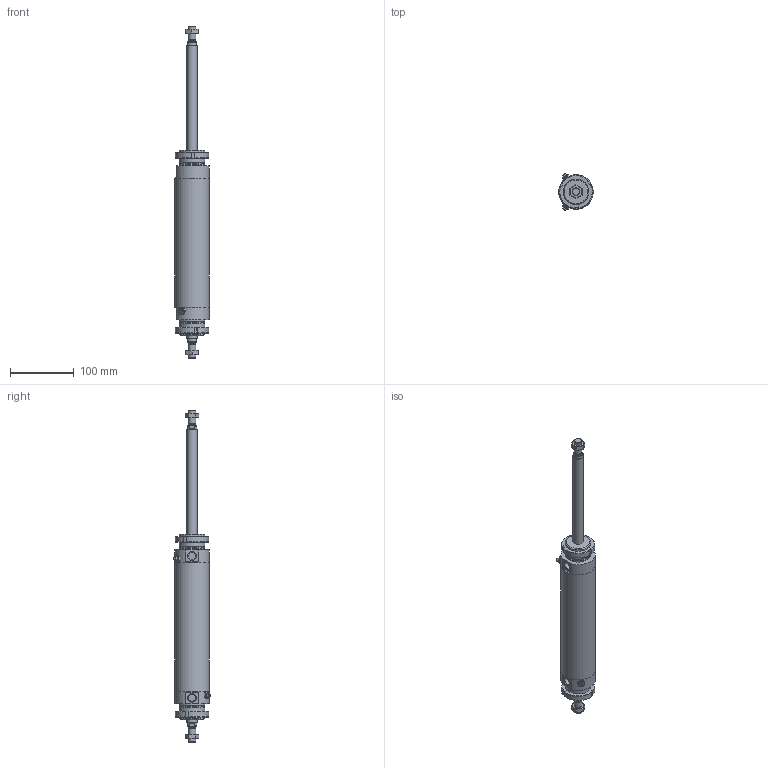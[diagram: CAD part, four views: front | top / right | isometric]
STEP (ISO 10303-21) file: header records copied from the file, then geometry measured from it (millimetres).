
FILE_DESCRIPTION(/* description */ (''),/* implementation_level */ '2;1');
FILE_NAME(/* name */ 'I:\Area Tecnica\Documenti\A-Manieri\_Inventor\12X\12X#S_###_####_#_#\12XDS_050_0160_#_#.stp',/* time_stamp */ '2015-05-13T08:20:35+02:00',/* author */ ('maniean1'),/* organization */ ('Pneumax S.p.A.'),/* preprocessor_version */ 'ST-DEVELOPER v15.2',/* originating_system */ 'Autodesk Inventor 2014',/* authorisation */ '');
FILE_SCHEMA (('AUTOMOTIVE_DESIGN { 1 0 10303 214 3 1 1 }'));
Length unit declared in the file: millimetre
Products named in the file (6): C1250_619-0160; 12X50_606; SP12X50_0160; 12X_50_11; G12X_050_05; 12XDS_050_0160_#_#
Bounding box: 54 x 57.75 x 522 mm (x, y, z)
Volume: 395667.9 mm3; surface area: 137720.6 mm2
Topology: 8 solids, 8 shells, 151 faces, 345 edges, 222 vertices
Faces by surface type: plane 78, cylinder 37, cone 34, torus 2
Full cylindrical faces by diameter (mm): 5 x2, 10.2 x2, 11 x2, 11.4 x2, 12 x4, 14 x2, 15.6 x2, 16 x2, 38.2 x2, 40 x6, 50 x2, 54 x3
Entity records: 2556 total; most frequent: CARTESIAN_POINT 505, DIRECTION 428, ORIENTED_EDGE 342, AXIS2_PLACEMENT_3D 182, EDGE_CURVE 171, EDGE_LOOP 144, VERTEX_POINT 129, ADVANCED_FACE 94
